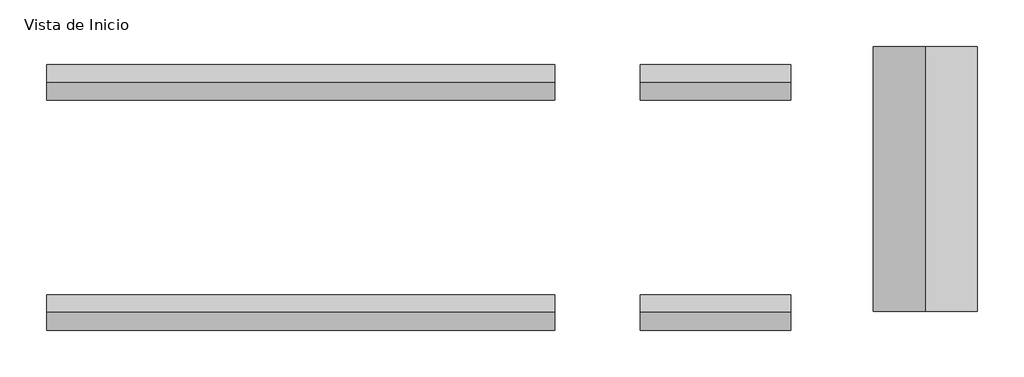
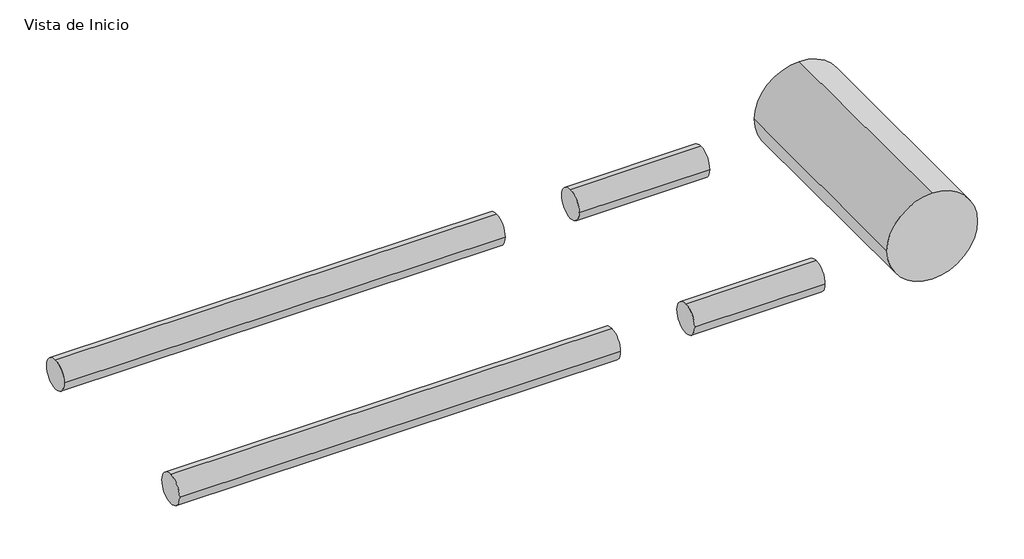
# One storey, incomplete: 5 pipe segments.
"""IFC4 building model written with IfcOpenShell, lengths in millimetres."""

import ifcopenshell
import ifcopenshell.guid

model = None  # the IFC model being written
_history = None  # IfcOwnerHistory: only IFC2X3 demands one
_inside = {}  # id of a spatial element -> (the spatial element, [elements in it])
_under = {}  # id of a project, library or spatial element -> (it, [spatial elements below it])
_declared = {}  # id of a project -> (the project, [libraries it declares])
_typed = {}  # id of a type object -> (the type object, [elements of that type])
_made_of = {}  # id of a material, layer set ... -> (it, [elements and type objects made of it])


def new_model(schema):
    """Start an empty IFC model of exactly this schema.

    Asked for "IFC4X3", IfcOpenShell would pick the latest addendum, in which some entities
    have other attributes; the version numbers below select the first issue.
    IFC2X3 requires an IfcOwnerHistory on every rooted entity: one is made here for all.
    """
    global model, _history
    if schema == "IFC4X3":
        model = ifcopenshell.file(schema_version=(4, 3, 0, 0))
    else:
        model = ifcopenshell.file(schema=schema)
    _inside.clear()
    _under.clear()
    _declared.clear()
    _typed.clear()
    _made_of.clear()
    _history = None
    if model.schema == "IFC2X3":
        org = make("IfcOrganization", Name="unknown")
        user = make(
            "IfcPersonAndOrganization",
            ThePerson=make("IfcPerson", FamilyName="unknown"),
            TheOrganization=org,
        )
        app = make(
            "IfcApplication",
            ApplicationDeveloper=org,
            Version="unknown",
            ApplicationFullName="unknown",
            ApplicationIdentifier="unknown",
        )
        _history = make(
            "IfcOwnerHistory",
            OwningUser=user,
            OwningApplication=app,
            ChangeAction="ADDED",
            CreationDate=0,
        )
    return model


def make(cls, **values):
    """One entity of the class cls with the attributes given. An attribute that is None is left unset."""
    return model.create_entity(
        cls, **{name: value for name, value in values.items() if value is not None}
    )


def rooted(cls, **values):
    """An entity with a GlobalId (a new one), such as an element, a storey or a relation."""
    return make(cls, GlobalId=ifcopenshell.guid.new(), OwnerHistory=_history, **values)


def si_unit(unit_type, name, prefix=None):
    """IfcSIUnit, for example si_unit("LENGTHUNIT", "METRE", prefix="MILLI")."""
    return make("IfcSIUnit", UnitType=unit_type, Prefix=prefix, Name=name)


def assignment(units):
    """IfcUnitAssignment: the units of a project."""
    return None if units is None else make("IfcUnitAssignment", Units=units)


def point(xyz):
    """IfcCartesianPoint."""
    return None if xyz is None else make("IfcCartesianPoint", Coordinates=xyz)


def direction(xyz):
    """IfcDirection."""
    return None if xyz is None else make("IfcDirection", DirectionRatios=xyz)


def frame(location, z_axis=None, x_axis=None):
    """IfcAxis2Placement3D, a coordinate frame: its origin and axes. An axis left out is left unset."""
    return make(
        "IfcAxis2Placement3D",
        Location=point(location),
        Axis=direction(z_axis),
        RefDirection=direction(x_axis),
    )


def frame_2d(location, x_axis=None):
    """IfcAxis2Placement2D, a coordinate frame in the plane: its origin and x axis."""
    return make(
        "IfcAxis2Placement2D", Location=point(location), RefDirection=direction(x_axis)
    )


def origin():
    """The frame at (0, 0, 0) with its axes left unset."""
    return frame((0.0, 0.0, 0.0))


def place(relative_to, where):
    """IfcLocalPlacement: puts the frame where relative to a parent placement (None: the world)."""
    return make(
        "IfcLocalPlacement", PlacementRelTo=relative_to, RelativePlacement=where
    )


def context(
    kind, dimensions, precision=None, world=None, true_north=None, identifier=None
):
    """IfcGeometricRepresentationContext, for example the 3D "Model" context."""
    return make(
        "IfcGeometricRepresentationContext",
        ContextIdentifier=identifier,
        ContextType=kind,
        CoordinateSpaceDimension=dimensions,
        Precision=precision,
        WorldCoordinateSystem=world,
        TrueNorth=true_north,
    )


def project(units=None, contexts=None):
    """IfcProject with its units and contexts."""
    return rooted(
        "IfcProject",
        Name="project",
        RepresentationContexts=contexts,
        UnitsInContext=assignment(units),
    )


def spatial(cls, under=None, at=None, **own):
    """A site, building, storey or space (cls), placed at a placement, below another one or the project."""
    s = rooted(cls, ObjectPlacement=at, **own)
    if under is not None:
        _under.setdefault(under.id(), (under, []))[1].append(s)
    return s


def circle_curve(where, radius):
    """IfcCircle in the frame where."""
    return make("IfcCircle", Position=where, Radius=radius)


def trimmed(basis, trim1, trim2, sense, master):
    """IfcTrimmedCurve: the piece of a basis curve between two trims."""
    return make(
        "IfcTrimmedCurve",
        BasisCurve=basis,
        Trim1=trim1,
        Trim2=trim2,
        SenseAgreement=sense,
        MasterRepresentation=master,
    )


def segment(curve, same_sense, transition):
    """IfcCompositeCurveSegment."""
    return make(
        "IfcCompositeCurveSegment",
        Transition=transition,
        SameSense=same_sense,
        ParentCurve=curve,
    )


def composite_curve(segments, self_intersect=None):
    """IfcCompositeCurve: segments joined end to end."""
    return make("IfcCompositeCurve", Segments=segments, SelfIntersect=self_intersect)


def outline(outer, holes=None, kind="AREA"):
    """IfcArbitraryClosedProfileDef: a profile drawn as a closed curve; with holes, ...WithVoids."""
    if holes is None:
        return make("IfcArbitraryClosedProfileDef", ProfileType=kind, OuterCurve=outer)
    return make(
        "IfcArbitraryProfileDefWithVoids",
        ProfileType=kind,
        OuterCurve=outer,
        InnerCurves=holes,
    )


def extrude(swept, where, along, depth):
    """IfcExtrudedAreaSolid: the profile swept, set in the frame where, extruded along a direction by depth."""
    return make(
        "IfcExtrudedAreaSolid",
        SweptArea=swept,
        Position=where,
        ExtrudedDirection=direction(along),
        Depth=depth,
    )


def shape(context_of_items, identifier, shape_type, items):
    """IfcShapeRepresentation: the items that make up one representation, for example the "Body"."""
    return make(
        "IfcShapeRepresentation",
        ContextOfItems=context_of_items,
        RepresentationIdentifier=identifier,
        RepresentationType=shape_type,
        Items=items,
    )


def made_of(thing, what):
    """Note that an element or type object is made of a material, layer set ...; save() writes the relation."""
    if what is not None:
        _made_of.setdefault(what.id(), (what, []))[1].append(thing)
    return thing


def element(
    cls,
    number,
    at=None,
    inside=None,
    cuts=None,
    type_object=None,
    material=None,
    context=None,
    identifier="Body",
    shape_type=None,
    held_by="IfcProductDefinitionShape",
    body=None,
    shapes=None,
    **own,
):
    """One element of the class cls, such as IfcWall. Its Tag is "e" and its number.

    at: its placement. inside: the storey or other place that contains it. cuts: it is an
    opening in that element (IfcRelVoidsElement). A single representation is given by context,
    identifier, shape_type and body (its items); several are given by shapes. held_by: the class
    of the entity that holds the representations. save() writes the other relations.
    """
    e = rooted(cls, Tag="e%d" % number, ObjectPlacement=at, **own)
    if body is not None:
        shapes = [shape(context, identifier, shape_type, body)]
    if shapes is not None:
        e.Representation = make(held_by, Representations=shapes)
    if inside is not None:
        _inside.setdefault(inside.id(), (inside, []))[1].append(e)
    if cuts is not None:
        rooted(
            "IfcRelVoidsElement", RelatingBuildingElement=cuts, RelatedOpeningElement=e
        )
    if type_object is not None:
        _typed.setdefault(type_object.id(), (type_object, []))[1].append(e)
    return made_of(e, material)


def aggregate(whole, parts):
    """IfcRelAggregates: a whole, such as a stair, and the parts it consists of."""
    return rooted("IfcRelAggregates", RelatingObject=whole, RelatedObjects=parts)


def save(model, path):
    """Write the relations noted so far, then the file.

    IfcRelAggregates (storeys below a building ...), IfcRelContainedInSpatialStructure (elements
    in a storey), IfcRelDefinesByType, IfcRelAssociatesMaterial and IfcRelDeclares: one each for
    every whole, place, type object, material and project.
    """
    for whole, parts in _under.values():
        aggregate(whole, parts)
    for where, things in _inside.values():
        rooted(
            "IfcRelContainedInSpatialStructure",
            RelatedElements=things,
            RelatingStructure=where,
        )
    for kind, things in _typed.values():
        rooted("IfcRelDefinesByType", RelatedObjects=things, RelatingType=kind)
    for what, things in _made_of.values():
        rooted("IfcRelAssociatesMaterial", RelatedObjects=things, RelatingMaterial=what)
    for by, libraries in _declared.values():
        rooted("IfcRelDeclares", RelatingContext=by, RelatedDefinitions=libraries)
    model.write(path)


model = new_model("IFC4")

# Units and contexts
model_context = context("Model", 3, world=origin())
ifc_project = project(units=[si_unit("LENGTHUNIT", "METRE", prefix="MILLI")], contexts=[model_context])

# Site, building, storey
site = spatial("IfcSite", under=ifc_project)
building = spatial("IfcBuilding", under=site)
storey = spatial("IfcBuildingStorey", under=building, Name="Vista de Inicio", Elevation=0.0)

# Pipe segments
placement = place(None, origin())
element("IfcPipeSegment", 1, ObjectType="PavcoWavin_Tuberias_Novafort-S8-S4-S5_110a1200mm", at=placement, inside=storey, context=model_context, shape_type="SweptSolid", body=[
    extrude(outline(composite_curve([segment(trimmed(circle_curve(frame_2d((-7888.5671296, 0.0)), 200.0), [point((-8088.5671296, 0.0))], [point((-7888.5671296, 200.0))], False, "CARTESIAN"), True, "CONTINUOUS"), segment(trimmed(circle_curve(frame_2d((-7888.5671296, 0.0)), 200.0), [point((-7888.5671296, 200.0))], [point((-7688.5671296, 0.0))], False, "CARTESIAN"), True, "CONTINUOUS"), segment(trimmed(circle_curve(frame_2d((-7888.5671296, 0.0)), 200.0), [point((-7688.5671296, 0.0))], [point((-7888.5671296, -200.0))], False, "CARTESIAN"), True, "CONTINUOUS"), segment(trimmed(circle_curve(frame_2d((-7888.5671296, 0.0)), 200.0), [point((-7888.5671296, -200.0))], [point((-8088.5671296, 0.0))], False, "CARTESIAN"), True, "CONTINUOUS")], self_intersect=False)), frame((-2574.9057636, 0.0, 0.0), z_axis=(1.0, 0.0, 0.0), x_axis=(0.0, 1.0, 0.0)), (0.0, 0.0, 1.0), 5750.0),
])
element("IfcPipeSegment", 2, ObjectType="PavcoWavin_Tuberias_Novafort-S4Plus_160a400mm", at=placement, inside=storey, context=model_context, shape_type="SweptSolid", body=[
    extrude(outline(composite_curve([segment(trimmed(circle_curve(frame_2d((-7888.5671296, 0.0)), 200.0), [point((-8088.5671296, 0.0))], [point((-7888.5671296, 200.0))], False, "CARTESIAN"), True, "CONTINUOUS"), segment(trimmed(circle_curve(frame_2d((-7888.5671296, 0.0)), 200.0), [point((-7888.5671296, 200.0))], [point((-7688.5671296, 0.0))], False, "CARTESIAN"), True, "CONTINUOUS"), segment(trimmed(circle_curve(frame_2d((-7888.5671296, 0.0)), 200.0), [point((-7688.5671296, 0.0))], [point((-7888.5671296, -200.0))], False, "CARTESIAN"), True, "CONTINUOUS"), segment(trimmed(circle_curve(frame_2d((-7888.5671296, 0.0)), 200.0), [point((-7888.5671296, -200.0))], [point((-8088.5671296, 0.0))], False, "CARTESIAN"), True, "CONTINUOUS")], self_intersect=False)), frame((4141.9948009, 0.0, 0.0), z_axis=(1.0, 0.0, 0.0), x_axis=(0.0, 1.0, 0.0)), (0.0, 0.0, 1.0), 1700.0),
])
element("IfcPipeSegment", 3, ObjectType="PavcoWavin_Tuberias_Novafort-S8-S4-S5_4a48\"", at=placement, inside=storey, context=model_context, shape_type="SweptSolid", body=[
    extrude(outline(composite_curve([segment(trimmed(circle_curve(frame_2d((-5283.3857944, 0.0)), 200.0), [point((-5483.3857944, 0.0))], [point((-5283.3857944, 200.0))], False, "CARTESIAN"), True, "CONTINUOUS"), segment(trimmed(circle_curve(frame_2d((-5283.3857944, 0.0)), 200.0), [point((-5283.3857944, 200.0))], [point((-5083.3857944, 0.0))], False, "CARTESIAN"), True, "CONTINUOUS"), segment(trimmed(circle_curve(frame_2d((-5283.3857944, 0.0)), 200.0), [point((-5083.3857944, 0.0))], [point((-5283.3857944, -200.0))], False, "CARTESIAN"), True, "CONTINUOUS"), segment(trimmed(circle_curve(frame_2d((-5283.3857944, 0.0)), 200.0), [point((-5283.3857944, -200.0))], [point((-5483.3857944, 0.0))], False, "CARTESIAN"), True, "CONTINUOUS")], self_intersect=False)), frame((-2574.9057636, 0.0, 0.0), z_axis=(1.0, 0.0, 0.0), x_axis=(0.0, 1.0, 0.0)), (0.0, 0.0, 1.0), 5750.0),
])
element("IfcPipeSegment", 4, ObjectType="PavcoWavin_Tuberias_Novafort-S4Plus_6a16\"", at=placement, inside=storey, context=model_context, shape_type="SweptSolid", body=[
    extrude(outline(composite_curve([segment(trimmed(circle_curve(frame_2d((-5283.3857944, 0.0)), 200.0), [point((-5483.3857944, 0.0))], [point((-5283.3857944, 200.0))], False, "CARTESIAN"), True, "CONTINUOUS"), segment(trimmed(circle_curve(frame_2d((-5283.3857944, 0.0)), 200.0), [point((-5283.3857944, 200.0))], [point((-5083.3857944, 0.0))], False, "CARTESIAN"), True, "CONTINUOUS"), segment(trimmed(circle_curve(frame_2d((-5283.3857944, 0.0)), 200.0), [point((-5083.3857944, 0.0))], [point((-5283.3857944, -200.0))], False, "CARTESIAN"), True, "CONTINUOUS"), segment(trimmed(circle_curve(frame_2d((-5283.3857944, 0.0)), 200.0), [point((-5283.3857944, -200.0))], [point((-5483.3857944, 0.0))], False, "CARTESIAN"), True, "CONTINUOUS")], self_intersect=False)), frame((4141.9948009, 0.0, 0.0), z_axis=(1.0, 0.0, 0.0), x_axis=(0.0, 1.0, 0.0)), (0.0, 0.0, 1.0), 1700.0),
])
element("IfcPipeSegment", 5, ObjectType="PavcoWavin_Tuberias_Novaloc_45a60\"", at=placement, inside=storey, context=model_context, shape_type="SweptSolid", body=[
    extrude(outline(composite_curve([segment(trimmed(circle_curve(frame_2d((0.0, 7362.957923)), 590.0), [point((0.0, 6772.957923))], [point((-590.0, 7362.957923))], False, "CARTESIAN"), True, "CONTINUOUS"), segment(trimmed(circle_curve(frame_2d((0.0, 7362.957923)), 590.0), [point((-590.0, 7362.957923))], [point((0.0, 7952.957923))], False, "CARTESIAN"), True, "CONTINUOUS"), segment(trimmed(circle_curve(frame_2d((0.0, 7362.957923)), 590.0), [point((0.0, 7952.957923))], [point((590.0, 7362.957923))], False, "CARTESIAN"), True, "CONTINUOUS"), segment(trimmed(circle_curve(frame_2d((0.0, 7362.957923)), 590.0), [point((590.0, 7362.957923))], [point((0.0, 6772.957923))], False, "CARTESIAN"), True, "CONTINUOUS")], self_intersect=False)), frame((0.0, -7876.0227391, 0.0), z_axis=(0.0, 1.0, 0.0), x_axis=(0.0, 0.0, 1.0)), (0.0, 0.0, 1.0), 3000.0),
])

save(model, "model.ifc")
